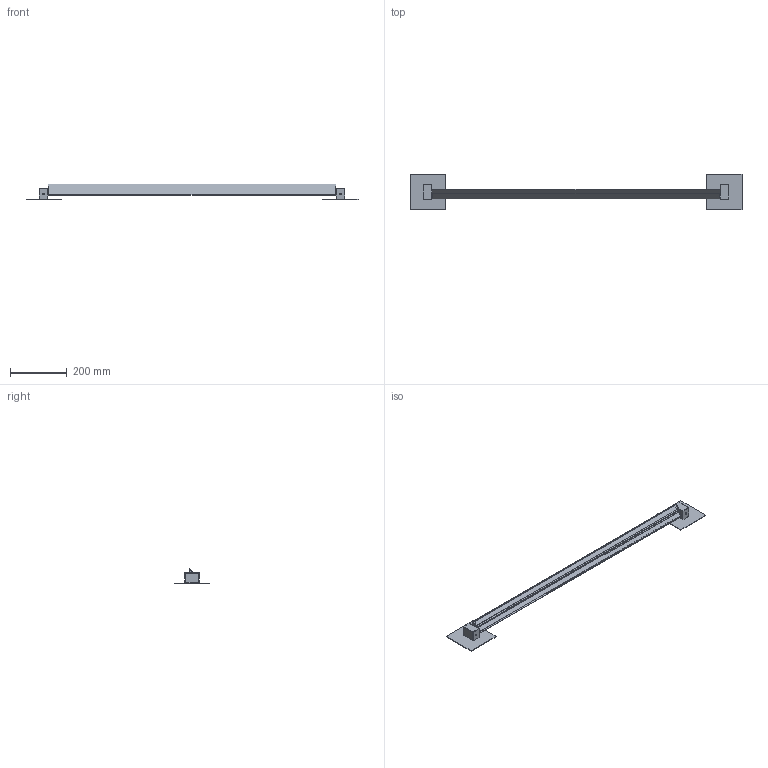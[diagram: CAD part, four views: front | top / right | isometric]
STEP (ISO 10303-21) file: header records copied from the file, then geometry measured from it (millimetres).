
FILE_DESCRIPTION(/* description */ ('Unknown'),/* implementation_level */ '2;1');
FILE_NAME(/* name */ 'F39 G03-G04',/* time_stamp */ '2021-01-11T10:24:35+01:00',/* author */ ('Unknown'),/* organization */ ('Unknown'),/* preprocessor_version */ 'ST-DEVELOPER v16.7',/* originating_system */ 'Solid Edge',/* authorisation */ 'Unknown');
FILE_SCHEMA (('AUTOMOTIVE_DESIGN {1 0 10303 214 3 1 1}'));
Length unit declared in the file: millimetre
Products named in the file (11): ASSIEME APPLIQUE MEDIA PIVOT_R07 - America; STAFFA AP PIVOT_R07; COPRI STAFFA AP PIVOT_R07; PERNO PIVOT_R07; TAPPO TESTA PIVOT_R07; hex nut style 1 gradeab_iso_Hexagon Nut ISO - 4032 - M8 - D - N; BARRA APPLIQUE PIVOT  MEDIA; DIFFUSORE APPLIQUE PIVOT MEDIO; Vite TCSC M3 X  4; Vite TCC autof. 2,2 x 6; Placca America
Assembly tree (21 placements, depth 2):
  ASSIEME APPLIQUE MEDIA PIVOT_R07 - America
    STAFFA AP PIVOT_R07  x2
    COPRI STAFFA AP PIVOT_R07  x2
    PERNO PIVOT_R07  x2
    TAPPO TESTA PIVOT_R07  x2
    hex nut style 1 gradeab_iso_Hexagon Nut ISO - 4032 - M8 - D - N  x2
    BARRA APPLIQUE PIVOT  MEDIA
    DIFFUSORE APPLIQUE PIVOT MEDIO  x2
    Vite TCSC M3 X  4  x4
    Vite TCC autof. 2,2 x 6  x2
    Placca America  x2
Bounding box: 1175 x 125.16 x 55.46 mm (x, y, z)
Volume: 302372.2 mm3; surface area: 413408.1 mm2
Topology: 21 solids, 21 shells, 613 faces, 1506 edges, 955 vertices
Faces by surface type: plane 311, cylinder 198, cone 58, bspline 24, torus 20, sphere 2
Full cylindrical faces by diameter (mm): 1.2 x10, 2 x2, 2.5 x4, 3 x6, 3.4 x4, 4 x4, 5 x2, 5.2 x4, 6.8 x2, 7 x8, 7.2 x1, 8 x4, 8.2 x2, 11 x2, 13 x2
Entity records: 10930 total; most frequent: CARTESIAN_POINT 2911, DIRECTION 1554, ORIENTED_EDGE 1466, EDGE_CURVE 733, AXIS2_PLACEMENT_3D 557, VERTEX_POINT 490, LINE 440, VECTOR 440
